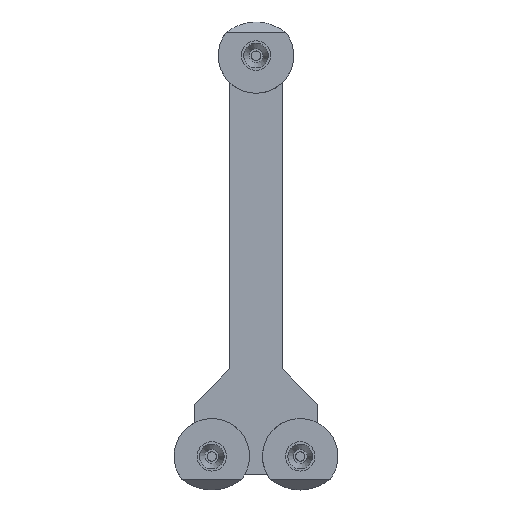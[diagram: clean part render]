
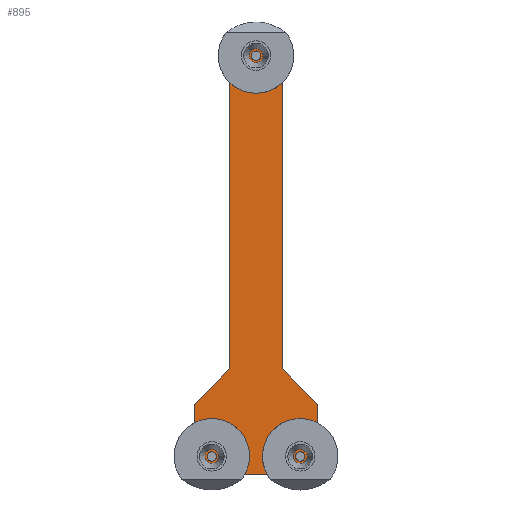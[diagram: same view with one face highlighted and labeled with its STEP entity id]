
A CAD part, top view. The second image highlights one B-rep face of the part: STEP entity #895.
In plain terms, the highlighted planar face has unit normal (0, 0, 1).
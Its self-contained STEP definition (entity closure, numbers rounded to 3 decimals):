
#53=FACE_BOUND('',#150,.T.);
#54=FACE_BOUND('',#151,.T.);
#55=FACE_BOUND('',#152,.T.);
#63=CIRCLE('',#997,0.8);
#64=CIRCLE('',#998,0.8);
#65=CIRCLE('',#999,0.8);
#66=CIRCLE('',#1000,0.8);
#67=CIRCLE('',#1001,0.8);
#68=CIRCLE('',#1002,0.8);
#101=FACE_OUTER_BOUND('',#149,.T.);
#149=EDGE_LOOP('',(#607,#608,#609,#610,#611,#612,#613,#614));
#150=EDGE_LOOP('',(#615,#616));
#151=EDGE_LOOP('',(#617,#618));
#152=EDGE_LOOP('',(#619,#620));
#205=LINE('',#1365,#294);
#209=LINE('',#1373,#298);
#212=LINE('',#1379,#301);
#213=LINE('',#1381,#302);
#214=LINE('',#1383,#303);
#215=LINE('',#1385,#304);
#216=LINE('',#1387,#305);
#217=LINE('',#1388,#306);
#294=VECTOR('',#1091,10.);
#298=VECTOR('',#1097,10.);
#301=VECTOR('',#1102,10.);
#302=VECTOR('',#1103,10.);
#303=VECTOR('',#1104,10.);
#304=VECTOR('',#1105,10.);
#305=VECTOR('',#1106,10.);
#306=VECTOR('',#1107,10.);
#383=VERTEX_POINT('',#1363);
#384=VERTEX_POINT('',#1364);
#387=VERTEX_POINT('',#1372);
#389=VERTEX_POINT('',#1378);
#390=VERTEX_POINT('',#1380);
#391=VERTEX_POINT('',#1382);
#392=VERTEX_POINT('',#1384);
#393=VERTEX_POINT('',#1386);
#394=VERTEX_POINT('',#1389);
#395=VERTEX_POINT('',#1390);
#396=VERTEX_POINT('',#1393);
#397=VERTEX_POINT('',#1394);
#398=VERTEX_POINT('',#1397);
#399=VERTEX_POINT('',#1398);
#470=EDGE_CURVE('',#383,#384,#205,.T.);
#474=EDGE_CURVE('',#384,#387,#209,.T.);
#477=EDGE_CURVE('',#383,#389,#212,.T.);
#478=EDGE_CURVE('',#389,#390,#213,.T.);
#479=EDGE_CURVE('',#390,#391,#214,.T.);
#480=EDGE_CURVE('',#392,#391,#215,.T.);
#481=EDGE_CURVE('',#393,#392,#216,.T.);
#482=EDGE_CURVE('',#387,#393,#217,.T.);
#483=EDGE_CURVE('',#394,#395,#63,.T.);
#484=EDGE_CURVE('',#395,#394,#64,.T.);
#485=EDGE_CURVE('',#396,#397,#65,.T.);
#486=EDGE_CURVE('',#397,#396,#66,.T.);
#487=EDGE_CURVE('',#398,#399,#67,.T.);
#488=EDGE_CURVE('',#399,#398,#68,.T.);
#607=ORIENTED_EDGE('',*,*,#470,.F.);
#608=ORIENTED_EDGE('',*,*,#477,.T.);
#609=ORIENTED_EDGE('',*,*,#478,.T.);
#610=ORIENTED_EDGE('',*,*,#479,.T.);
#611=ORIENTED_EDGE('',*,*,#480,.F.);
#612=ORIENTED_EDGE('',*,*,#481,.F.);
#613=ORIENTED_EDGE('',*,*,#482,.F.);
#614=ORIENTED_EDGE('',*,*,#474,.F.);
#615=ORIENTED_EDGE('',*,*,#483,.T.);
#616=ORIENTED_EDGE('',*,*,#484,.T.);
#617=ORIENTED_EDGE('',*,*,#485,.T.);
#618=ORIENTED_EDGE('',*,*,#486,.T.);
#619=ORIENTED_EDGE('',*,*,#487,.T.);
#620=ORIENTED_EDGE('',*,*,#488,.T.);
#859=PLANE('',#996);
#895=ADVANCED_FACE('',(#101,#53,#54,#55),#859,.T.);
#996=AXIS2_PLACEMENT_3D('',#1377,#1100,#1101);
#997=AXIS2_PLACEMENT_3D('',#1391,#1108,#1109);
#998=AXIS2_PLACEMENT_3D('',#1392,#1110,#1111);
#999=AXIS2_PLACEMENT_3D('',#1395,#1112,#1113);
#1000=AXIS2_PLACEMENT_3D('',#1396,#1114,#1115);
#1001=AXIS2_PLACEMENT_3D('',#1399,#1116,#1117);
#1002=AXIS2_PLACEMENT_3D('',#1400,#1118,#1119);
#1091=DIRECTION('',(0.707,-0.707,0.));
#1097=DIRECTION('',(0.,-1.,0.));
#1100=DIRECTION('center_axis',(0.,0.,
1.));
#1101=DIRECTION('ref_axis',(0.,-1.,0.));
#1102=DIRECTION('',(0.,1.,0.));
#1103=DIRECTION('',(-1.,0.,0.));
#1104=DIRECTION('',(0.,-1.,0.));
#1105=DIRECTION('',(0.707,0.707,0.));
#1106=DIRECTION('',(0.,1.,0.));
#1107=DIRECTION('',(-1.,0.,0.));
#1108=DIRECTION('center_axis',(0.,0.,
-1.));
#1109=DIRECTION('ref_axis',(1.,0.,0.));
#1110=DIRECTION('center_axis',(0.,0.,
-1.));
#1111=DIRECTION('ref_axis',(1.,0.,0.));
#1112=DIRECTION('center_axis',(0.,0.,
-1.));
#1113=DIRECTION('ref_axis',(1.,0.,0.));
#1114=DIRECTION('center_axis',(0.,0.,
-1.));
#1115=DIRECTION('ref_axis',(1.,0.,0.));
#1116=DIRECTION('center_axis',(0.,0.,
-1.));
#1117=DIRECTION('ref_axis',(1.,0.,0.));
#1118=DIRECTION('center_axis',(0.,0.,
-1.));
#1119=DIRECTION('ref_axis',(1.,0.,0.));
#1363=CARTESIAN_POINT('',(12.,9.852,1.2));
#1364=CARTESIAN_POINT('',(18.,3.852,1.2));
#1365=CARTESIAN_POINT('',(-5.,26.852,1.2));
#1372=CARTESIAN_POINT('',(18.,-8.,1.2));
#1373=CARTESIAN_POINT('',(18.,0.,1.2));
#1377=CARTESIAN_POINT('Origin',(0.,71.852,
1.2));
#1378=CARTESIAN_POINT('',(12.,66.852,1.2));
#1379=CARTESIAN_POINT('',(12.,56.352,1.2));
#1380=CARTESIAN_POINT('',(3.,66.852,1.2));
#1381=CARTESIAN_POINT('',(3.75,66.852,1.2));
#1382=CARTESIAN_POINT('',(3.,9.852,1.2));
#1383=CARTESIAN_POINT('',(3.,56.352,1.2));
#1384=CARTESIAN_POINT('',(-3.,3.852,1.2));
#1385=CARTESIAN_POINT('',(16.25,23.102,1.2));
#1386=CARTESIAN_POINT('',(-3.,-8.,1.2));
#1387=CARTESIAN_POINT('',(-3.,12.02,1.2));
#1388=CARTESIAN_POINT('',(3.75,-8.,1.2));
#1389=CARTESIAN_POINT('',(8.3,63.,1.2));
#1390=CARTESIAN_POINT('',(6.7,63.,1.2));
#1391=CARTESIAN_POINT('Origin',(7.5,63.,1.2));
#1392=CARTESIAN_POINT('Origin',(7.5,63.,1.2));
#1393=CARTESIAN_POINT('',(0.8,-5.,1.2));
#1394=CARTESIAN_POINT('',(-0.8,-5.,1.2));
#1395=CARTESIAN_POINT('Origin',(0.,-5.,1.2));
#1396=CARTESIAN_POINT('Origin',(0.,-5.,1.2));
#1397=CARTESIAN_POINT('',(15.8,-5.,1.2));
#1398=CARTESIAN_POINT('',(14.2,-5.,1.2));
#1399=CARTESIAN_POINT('Origin',(15.,-5.,1.2));
#1400=CARTESIAN_POINT('Origin',(15.,-5.,1.2));
